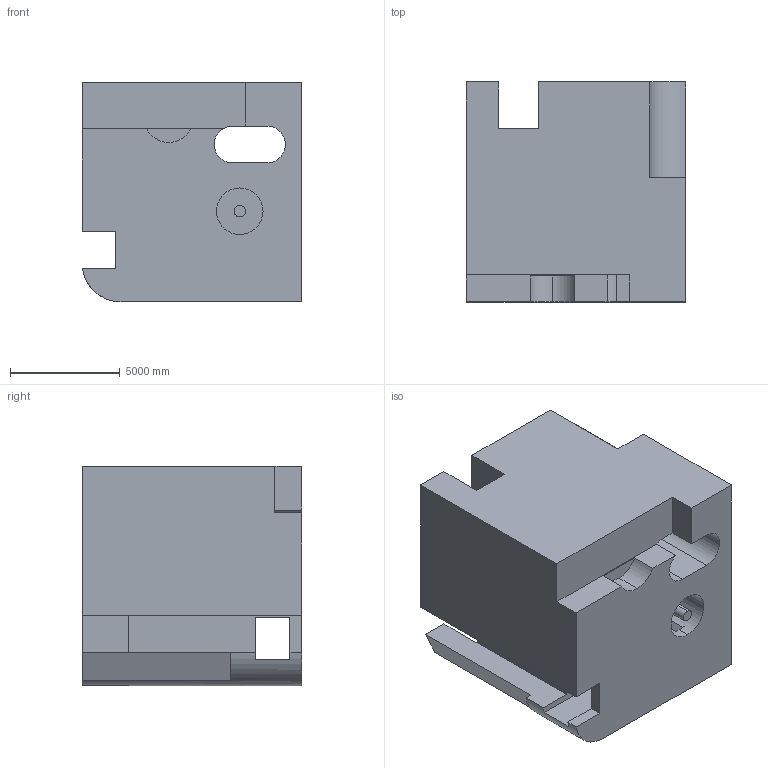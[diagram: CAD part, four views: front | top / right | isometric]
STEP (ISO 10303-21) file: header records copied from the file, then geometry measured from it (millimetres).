
FILE_DESCRIPTION (( 'STEP AP203' ), '1' );
FILE_NAME ('963.STEP', '2022-07-29T14:44:20', ( 'user' ), ( '' ), 'SwSTEP 2.0', 'SolidWorks 2021', '' );
FILE_SCHEMA (( 'CONFIG_CONTROL_DESIGN' ));
Length unit declared in the file: centimetre
Products named in the file (1): 963
Bounding box: 10000 x 10000 x 10000 mm (x, y, z)
Volume: 794723882473.5 mm3; surface area: 831844370.2 mm2
Topology: 1 solids, 1 shells, 42 faces, 126 edges, 84 vertices
Faces by surface type: plane 32, cylinder 10
Entity records: 1508 total; most frequent: CARTESIAN_POINT 253, ORIENTED_EDGE 252, DIRECTION 241, EDGE_CURVE 126, VECTOR 97, LINE 97, VERTEX_POINT 84, AXIS2_PLACEMENT_3D 72
